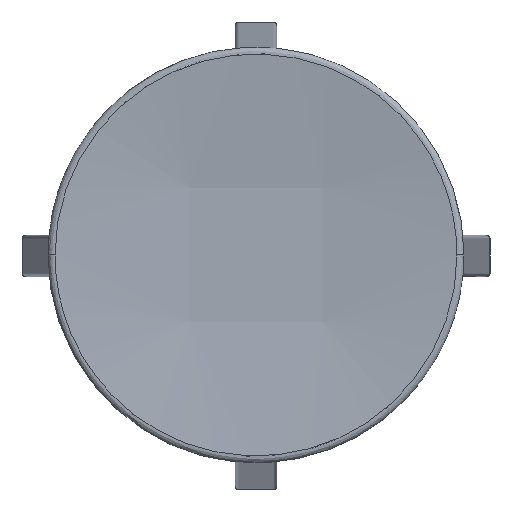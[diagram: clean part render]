
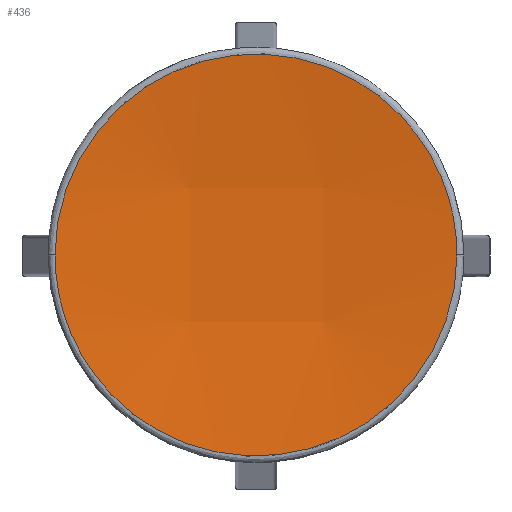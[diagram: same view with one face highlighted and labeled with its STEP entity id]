
A CAD part, top view. The second image highlights one B-rep face of the part: STEP entity #436.
In plain terms, the highlighted free-form (B-spline) face has degree [3, 3] with [4, 4] control points.
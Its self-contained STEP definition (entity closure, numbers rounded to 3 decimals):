
#436=ADVANCED_FACE('',(#567),#2144,.T.);
#567=FACE_OUTER_BOUND('',#698,.T.);
#698=EDGE_LOOP('',(#860,#861));
#860=ORIENTED_EDGE('',*,*,#1468,.F.);
#861=ORIENTED_EDGE('',*,*,#1465,.F.);
#1465=EDGE_CURVE('',#1918,#1919,#1777,.T.);
#1468=EDGE_CURVE('',#1919,#1918,#1780,.T.);
#1777=(
BOUNDED_CURVE()
B_SPLINE_CURVE(3,(#2435,#2436,#2437,#2438),.UNSPECIFIED.,.F.,.F.)
B_SPLINE_CURVE_WITH_KNOTS((4,4),(0.,1.),.UNSPECIFIED.)
CURVE()
GEOMETRIC_REPRESENTATION_ITEM()
RATIONAL_B_SPLINE_CURVE((1.,0.333,0.333,1.))
REPRESENTATION_ITEM('')
);
#1780=(
BOUNDED_CURVE()
B_SPLINE_CURVE(3,(#2447,#2448,#2449,#2450),.UNSPECIFIED.,.F.,.F.)
B_SPLINE_CURVE_WITH_KNOTS((4,4),(0.,1.),.UNSPECIFIED.)
CURVE()
GEOMETRIC_REPRESENTATION_ITEM()
RATIONAL_B_SPLINE_CURVE((1.,0.333,0.333,1.))
REPRESENTATION_ITEM('')
);
#1918=VERTEX_POINT('',#2412);
#1919=VERTEX_POINT('',#2413);
#2144=(
BOUNDED_SURFACE()
B_SPLINE_SURFACE(3,3,((#2342,#2343,#2344,#2345),(#2346,#2347,#2348,#2349),
(#2350,#2351,#2352,#2353),(#2354,#2355,#2356,#2357)),.UNSPECIFIED.,.F.,
 .F.,.F.)
B_SPLINE_SURFACE_WITH_KNOTS((4,4),(4,4),(0.,1.),(0.,1.),.UNSPECIFIED.)
GEOMETRIC_REPRESENTATION_ITEM()
RATIONAL_B_SPLINE_SURFACE(((1.,0.993,0.993,1.),
(0.993,0.986,0.986,0.993),
(0.993,0.986,0.986,0.993),
(1.,0.993,0.993,1.)))
REPRESENTATION_ITEM('')
SURFACE()
);
#2342=CARTESIAN_POINT('',(41.057,229.46,108.813));
#2343=CARTESIAN_POINT('',(-70.378,227.045,92.525));
#2344=CARTESIAN_POINT('',(-183.023,227.052,92.574));
#2345=CARTESIAN_POINT('',(-294.444,229.481,108.959));
#2346=CARTESIAN_POINT('',(41.057,339.965,92.428));
#2347=CARTESIAN_POINT('',(-70.378,339.158,75.902));
#2348=CARTESIAN_POINT('',(-183.023,339.16,75.952));
#2349=CARTESIAN_POINT('',(-294.444,339.972,92.577));
#2350=CARTESIAN_POINT('',(41.057,451.679,92.463));
#2351=CARTESIAN_POINT('',(-70.378,452.496,75.937));
#2352=CARTESIAN_POINT('',(-183.023,452.494,75.987));
#2353=CARTESIAN_POINT('',(-294.444,451.671,92.611));
#2354=CARTESIAN_POINT('',(41.057,562.174,108.916));
#2355=CARTESIAN_POINT('',(-70.378,564.599,92.629));
#2356=CARTESIAN_POINT('',(-183.023,564.592,92.678));
#2357=CARTESIAN_POINT('',(-294.444,562.152,109.062));
#2412=CARTESIAN_POINT('',(-291.473,395.472,96.283));
#2413=CARTESIAN_POINT('',(39.082,395.472,96.283));
#2435=CARTESIAN_POINT('',(-291.473,395.472,96.283));
#2436=CARTESIAN_POINT('',(-291.473,726.027,96.283));
#2437=CARTESIAN_POINT('',(39.082,726.027,96.283));
#2438=CARTESIAN_POINT('',(39.082,395.472,96.283));
#2447=CARTESIAN_POINT('',(39.082,395.472,96.283));
#2448=CARTESIAN_POINT('',(39.082,64.916,96.283));
#2449=CARTESIAN_POINT('',(-291.473,64.916,96.283));
#2450=CARTESIAN_POINT('',(-291.473,395.472,96.283));
